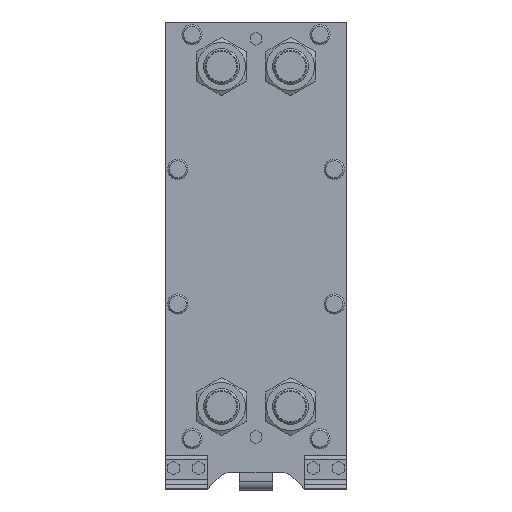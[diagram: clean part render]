
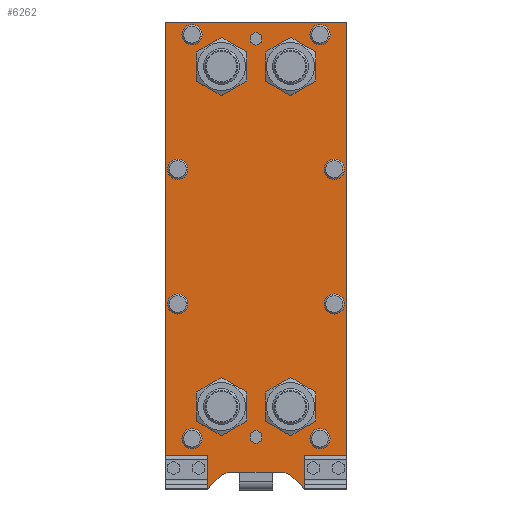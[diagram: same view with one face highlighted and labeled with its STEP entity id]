
A CAD part, top view. The second image highlights one B-rep face of the part: STEP entity #6262.
In plain terms, the highlighted planar face has unit normal (0, 0, 1).
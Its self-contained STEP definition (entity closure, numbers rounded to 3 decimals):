
#149=FACE_BOUND('',#963,.T.);
#150=FACE_BOUND('',#964,.T.);
#151=FACE_BOUND('',#965,.T.);
#152=FACE_BOUND('',#966,.T.);
#153=FACE_BOUND('',#967,.T.);
#154=FACE_BOUND('',#968,.T.);
#155=FACE_BOUND('',#969,.T.);
#156=FACE_BOUND('',#970,.T.);
#157=FACE_BOUND('',#971,.T.);
#158=FACE_BOUND('',#972,.T.);
#245=PLANE('',#6771);
#539=FACE_OUTER_BOUND('',#962,.T.);
#962=EDGE_LOOP('',(#4394,#4395,#4396,#4397,#4398,#4399,#4400,#4401,#4402,
#4403));
#963=EDGE_LOOP('',(#4404));
#964=EDGE_LOOP('',(#4405));
#965=EDGE_LOOP('',(#4406));
#966=EDGE_LOOP('',(#4407));
#967=EDGE_LOOP('',(#4408));
#968=EDGE_LOOP('',(#4409));
#969=EDGE_LOOP('',(#4410));
#970=EDGE_LOOP('',(#4411));
#971=EDGE_LOOP('',(#4412));
#972=EDGE_LOOP('',(#4413));
#1443=LINE('',#9377,#2006);
#1447=LINE('',#9385,#2010);
#1451=LINE('',#9397,#2014);
#1455=LINE('',#9409,#2018);
#1458=LINE('',#9415,#2021);
#1461=LINE('',#9421,#2024);
#1464=LINE('',#9427,#2027);
#1467=LINE('',#9432,#2030);
#2006=VECTOR('',#7516,10.);
#2010=VECTOR('',#7522,10.);
#2014=VECTOR('',#7534,10.);
#2018=VECTOR('',#7546,10.);
#2021=VECTOR('',#7551,10.);
#2024=VECTOR('',#7556,10.);
#2027=VECTOR('',#7561,10.);
#2030=VECTOR('',#7566,10.);
#2558=CIRCLE('',#6729,9.);
#2560=CIRCLE('',#6732,5.);
#2562=CIRCLE('',#6735,9.);
#2564=CIRCLE('',#6738,9.);
#2566=CIRCLE('',#6741,9.);
#2568=CIRCLE('',#6744,9.);
#2570=CIRCLE('',#6747,9.);
#2572=CIRCLE('',#6750,9.);
#2574=CIRCLE('',#6753,5.);
#2576=CIRCLE('',#6756,9.);
#2577=CIRCLE('',#6760,20.);
#2579=CIRCLE('',#6764,20.);
#2820=VERTEX_POINT('',#9317);
#2822=VERTEX_POINT('',#9323);
#2824=VERTEX_POINT('',#9329);
#2826=VERTEX_POINT('',#9335);
#2828=VERTEX_POINT('',#9341);
#2830=VERTEX_POINT('',#9347);
#2832=VERTEX_POINT('',#9353);
#2834=VERTEX_POINT('',#9359);
#2836=VERTEX_POINT('',#9365);
#2838=VERTEX_POINT('',#9371);
#2839=VERTEX_POINT('',#9375);
#2840=VERTEX_POINT('',#9376);
#2843=VERTEX_POINT('',#9384);
#2845=VERTEX_POINT('',#9390);
#2847=VERTEX_POINT('',#9396);
#2849=VERTEX_POINT('',#9402);
#2851=VERTEX_POINT('',#9408);
#2853=VERTEX_POINT('',#9414);
#2855=VERTEX_POINT('',#9420);
#2857=VERTEX_POINT('',#9426);
#3409=EDGE_CURVE('',#2820,#2820,#2558,.T.);
#3412=EDGE_CURVE('',#2822,#2822,#2560,.T.);
#3415=EDGE_CURVE('',#2824,#2824,#2562,.T.);
#3418=EDGE_CURVE('',#2826,#2826,#2564,.T.);
#3421=EDGE_CURVE('',#2828,#2828,#2566,.T.);
#3424=EDGE_CURVE('',#2830,#2830,#2568,.T.);
#3427=EDGE_CURVE('',#2832,#2832,#2570,.T.);
#3430=EDGE_CURVE('',#2834,#2834,#2572,.T.);
#3433=EDGE_CURVE('',#2836,#2836,#2574,.T.);
#3436=EDGE_CURVE('',#2838,#2838,#2576,.T.);
#3437=EDGE_CURVE('',#2839,#2840,#1443,.T.);
#3441=EDGE_CURVE('',#2840,#2843,#1447,.T.);
#3444=EDGE_CURVE('',#2843,#2845,#2577,.T.);
#3447=EDGE_CURVE('',#2845,#2847,#1451,.T.);
#3450=EDGE_CURVE('',#2847,#2849,#2579,.T.);
#3453=EDGE_CURVE('',#2849,#2851,#1455,.T.);
#3456=EDGE_CURVE('',#2851,#2853,#1458,.T.);
#3459=EDGE_CURVE('',#2853,#2855,#1461,.T.);
#3462=EDGE_CURVE('',#2855,#2857,#1464,.T.);
#3465=EDGE_CURVE('',#2857,#2839,#1467,.T.);
#4394=ORIENTED_EDGE('',*,*,#3465,.T.);
#4395=ORIENTED_EDGE('',*,*,#3437,.T.);
#4396=ORIENTED_EDGE('',*,*,#3441,.T.);
#4397=ORIENTED_EDGE('',*,*,#3444,.T.);
#4398=ORIENTED_EDGE('',*,*,#3447,.T.);
#4399=ORIENTED_EDGE('',*,*,#3450,.T.);
#4400=ORIENTED_EDGE('',*,*,#3453,.T.);
#4401=ORIENTED_EDGE('',*,*,#3456,.T.);
#4402=ORIENTED_EDGE('',*,*,#3459,.T.);
#4403=ORIENTED_EDGE('',*,*,#3462,.T.);
#4404=ORIENTED_EDGE('',*,*,#3436,.T.);
#4405=ORIENTED_EDGE('',*,*,#3433,.T.);
#4406=ORIENTED_EDGE('',*,*,#3430,.T.);
#4407=ORIENTED_EDGE('',*,*,#3427,.T.);
#4408=ORIENTED_EDGE('',*,*,#3424,.T.);
#4409=ORIENTED_EDGE('',*,*,#3421,.T.);
#4410=ORIENTED_EDGE('',*,*,#3418,.T.);
#4411=ORIENTED_EDGE('',*,*,#3415,.T.);
#4412=ORIENTED_EDGE('',*,*,#3412,.T.);
#4413=ORIENTED_EDGE('',*,*,#3409,.T.);
#6262=ADVANCED_FACE('',(#539,#149,#150,#151,#152,#153,#154,#155,#156,#157,
#158),#245,.T.);
#6729=AXIS2_PLACEMENT_3D('',#9319,#7449,#7450);
#6732=AXIS2_PLACEMENT_3D('',#9325,#7456,#7457);
#6735=AXIS2_PLACEMENT_3D('',#9331,#7463,#7464);
#6738=AXIS2_PLACEMENT_3D('',#9337,#7470,#7471);
#6741=AXIS2_PLACEMENT_3D('',#9343,#7477,#7478);
#6744=AXIS2_PLACEMENT_3D('',#9349,#7484,#7485);
#6747=AXIS2_PLACEMENT_3D('',#9355,#7491,#7492);
#6750=AXIS2_PLACEMENT_3D('',#9361,#7498,#7499);
#6753=AXIS2_PLACEMENT_3D('',#9367,#7505,#7506);
#6756=AXIS2_PLACEMENT_3D('',#9373,#7512,#7513);
#6760=AXIS2_PLACEMENT_3D('',#9391,#7527,#7528);
#6764=AXIS2_PLACEMENT_3D('',#9403,#7539,#7540);
#6771=AXIS2_PLACEMENT_3D('',#9434,#7568,#7569);
#7449=DIRECTION('center_axis',(0.,0.,-1.));
#7450=DIRECTION('ref_axis',(-1.,0.,0.));
#7456=DIRECTION('center_axis',(0.,0.,-1.));
#7457=DIRECTION('ref_axis',(-1.,0.,0.));
#7463=DIRECTION('center_axis',(0.,0.,-1.));
#7464=DIRECTION('ref_axis',(-1.,0.,0.));
#7470=DIRECTION('center_axis',(0.,0.,-1.));
#7471=DIRECTION('ref_axis',(-1.,0.,0.));
#7477=DIRECTION('center_axis',(0.,0.,-1.));
#7478=DIRECTION('ref_axis',(-1.,0.,0.));
#7484=DIRECTION('center_axis',(0.,0.,-1.));
#7485=DIRECTION('ref_axis',(-1.,0.,0.));
#7491=DIRECTION('center_axis',(0.,0.,-1.));
#7492=DIRECTION('ref_axis',(-1.,0.,0.));
#7498=DIRECTION('center_axis',(0.,0.,-1.));
#7499=DIRECTION('ref_axis',(-1.,0.,0.));
#7505=DIRECTION('center_axis',(0.,0.,-1.));
#7506=DIRECTION('ref_axis',(-1.,0.,0.));
#7512=DIRECTION('center_axis',(0.,0.,-1.));
#7513=DIRECTION('ref_axis',(-1.,0.,0.));
#7516=DIRECTION('',(1.,0.,0.));
#7522=DIRECTION('',(0.707,0.707,0.));
#7527=DIRECTION('center_axis',(0.,0.,-1.));
#7528=DIRECTION('ref_axis',(0.,-1.,0.));
#7534=DIRECTION('',(1.,0.,0.));
#7539=DIRECTION('center_axis',(0.,0.,-1.));
#7540=DIRECTION('ref_axis',(-0.707,-0.707,0.));
#7546=DIRECTION('',(0.707,-0.707,0.));
#7551=DIRECTION('',(1.,0.,0.));
#7556=DIRECTION('',(0.,1.,0.));
#7561=DIRECTION('',(-1.,0.,0.));
#7566=DIRECTION('',(0.,-1.,0.));
#7568=DIRECTION('center_axis',(0.,0.,1.));
#7569=DIRECTION('ref_axis',(1.,0.,0.));
#9317=CARTESIAN_POINT('',(85.,540.,0.));
#9319=CARTESIAN_POINT('Origin',(76.,540.,0.));
#9323=CARTESIAN_POINT('',(5.,62.,0.));
#9325=CARTESIAN_POINT('Origin',(0.,62.,0.));
#9329=CARTESIAN_POINT('',(85.,60.,0.));
#9331=CARTESIAN_POINT('Origin',(76.,60.,0.));
#9335=CARTESIAN_POINT('',(102.,220.,0.));
#9337=CARTESIAN_POINT('Origin',(93.,220.,0.));
#9341=CARTESIAN_POINT('',(-67.,60.,0.));
#9343=CARTESIAN_POINT('Origin',(-76.,60.,0.));
#9347=CARTESIAN_POINT('',(-84.,220.,0.));
#9349=CARTESIAN_POINT('Origin',(-93.,220.,0.));
#9353=CARTESIAN_POINT('',(102.,380.,0.));
#9355=CARTESIAN_POINT('Origin',(93.,380.,0.));
#9359=CARTESIAN_POINT('',(-84.,380.,0.));
#9361=CARTESIAN_POINT('Origin',(-93.,380.,0.));
#9365=CARTESIAN_POINT('',(5.,535.,0.));
#9367=CARTESIAN_POINT('Origin',(0.,535.,0.));
#9371=CARTESIAN_POINT('',(-67.,540.,0.));
#9373=CARTESIAN_POINT('Origin',(-76.,540.,0.));
#9375=CARTESIAN_POINT('',(-108.,0.,0.));
#9376=CARTESIAN_POINT('',(-58.,0.,0.));
#9377=CARTESIAN_POINT('',(-108.,0.,0.));
#9384=CARTESIAN_POINT('',(-43.858,14.142,0.));
#9385=CARTESIAN_POINT('',(-58.,0.,0.));
#9390=CARTESIAN_POINT('',(-29.716,20.,0.));
#9391=CARTESIAN_POINT('Origin',(-29.716,0.,
0.));
#9396=CARTESIAN_POINT('',(29.716,20.,0.));
#9397=CARTESIAN_POINT('',(-29.716,20.,0.));
#9402=CARTESIAN_POINT('',(43.858,14.142,0.));
#9403=CARTESIAN_POINT('Origin',(29.716,0.,0.));
#9408=CARTESIAN_POINT('',(58.,0.,0.));
#9409=CARTESIAN_POINT('',(43.858,14.142,0.));
#9414=CARTESIAN_POINT('',(108.,0.,0.));
#9415=CARTESIAN_POINT('',(58.,0.,0.));
#9420=CARTESIAN_POINT('',(108.,555.,0.));
#9421=CARTESIAN_POINT('',(108.,0.,0.));
#9426=CARTESIAN_POINT('',(-108.,555.,0.));
#9427=CARTESIAN_POINT('',(108.,555.,0.));
#9432=CARTESIAN_POINT('',(-108.,555.,0.));
#9434=CARTESIAN_POINT('Origin',(0.,277.5,0.));
